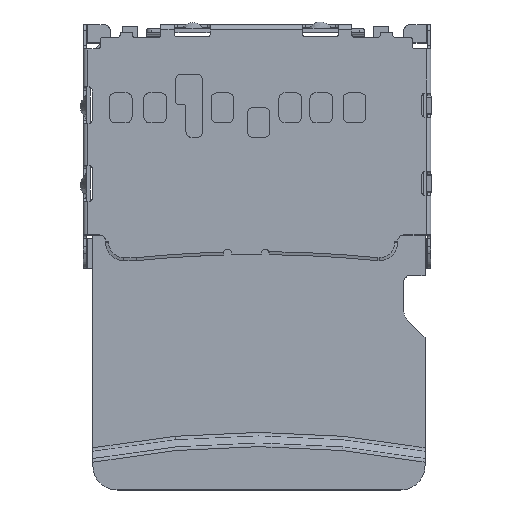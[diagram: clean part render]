
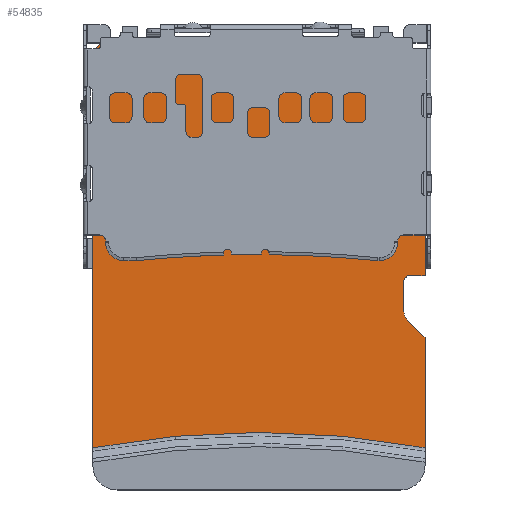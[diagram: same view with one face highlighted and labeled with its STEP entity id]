
A CAD part, top view. The second image highlights one B-rep face of the part: STEP entity #54835.
In plain terms, the highlighted planar face has unit normal (0, 0, 1).
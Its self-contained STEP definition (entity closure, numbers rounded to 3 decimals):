
#53633=CARTESIAN_POINT('',(-0.717,-17.449,
9.665));
#53635=DIRECTION('',(0.,1.,0.));
#53636=VECTOR('',#53635,3.636);
#53637=CARTESIAN_POINT('',(-0.717,-17.449,
9.665));
#53638=LINE('',#53637,#53636);
#53677=DIRECTION('',(0.,-1.,0.));
#53678=VECTOR('',#53677,12.802);
#53679=CARTESIAN_POINT('',(-11.717,-4.648,
9.665));
#53680=LINE('',#53679,#53678);
#53681=CARTESIAN_POINT('',(-11.717,-17.449,
9.665));
#53763=DIRECTION('',(0.,1.,0.));
#53764=VECTOR('',#53763,3.969);
#53765=CARTESIAN_POINT('',(-2.017,-8.616,
9.665));
#53766=LINE('',#53765,#53764);
#53771=CARTESIAN_POINT('',(-10.917,-4.648,
9.665));
#53772=DIRECTION('',(0.,0.,-1.));
#53773=DIRECTION('',(-1.,0.,0.));
#53774=AXIS2_PLACEMENT_3D('',#53771,#53772,#53773);
#53776=CARTESIAN_POINT('',(-2.817,-4.648,
9.665));
#53777=DIRECTION('',(0.,0.,-1.));
#53778=DIRECTION('',(0.,1.,0.));
#53779=AXIS2_PLACEMENT_3D('',#53776,#53777,#53778);
#53781=CARTESIAN_POINT('',(-1.617,-8.616,
9.665));
#53782=DIRECTION('',(0.,0.,1.));
#53783=DIRECTION('',(-1.,0.,0.));
#53784=AXIS2_PLACEMENT_3D('',#53781,#53782,#53783);
#53786=DIRECTION('',(0.707,-0.707,0.));
#53787=VECTOR('',#53786,1.507);
#53788=CARTESIAN_POINT('',(-1.9,-8.899,
9.665));
#53789=LINE('',#53788,#53787);
#53790=CARTESIAN_POINT('',(-1.117,-10.248,
9.665));
#53791=DIRECTION('',(0.,0.,-1.));
#53792=DIRECTION('',(0.707,0.707,0.));
#53793=AXIS2_PLACEMENT_3D('',#53790,#53791,#53792);
#53795=CARTESIAN_POINT('',(-1.217,-11.948,
9.665));
#53796=DIRECTION('',(0.,0.,1.));
#53797=DIRECTION('',(0.,1.,0.));
#53798=AXIS2_PLACEMENT_3D('',#53795,#53796,#53797);
#53800=CARTESIAN_POINT('',(-1.017,-12.948,
9.665));
#53801=DIRECTION('',(0.,0.,1.));
#53802=DIRECTION('',(-1.,0.,0.));
#53803=AXIS2_PLACEMENT_3D('',#53800,#53801,#53802);
#53805=DIRECTION('',(0.707,-0.707,0.));
#53806=VECTOR('',#53805,0.824);
#53807=CARTESIAN_POINT('',(-1.3,-13.231,
9.665));
#53808=LINE('',#53807,#53806);
#53809=CARTESIAN_POINT('',(-6.217,-47.008,
9.665));
#53810=DIRECTION('',(0.,0.,1.));
#53811=DIRECTION('',(0.183,0.983,0.));
#53812=AXIS2_PLACEMENT_3D('',#53809,#53810,#53811);
#53850=DIRECTION('',(-1.,0.,0.));
#53851=VECTOR('',#53850,8.1);
#53852=CARTESIAN_POINT('',(-2.817,-3.848,
9.665));
#53853=LINE('',#53852,#53851);
#53874=DIRECTION('',(0.,1.,0.));
#53875=VECTOR('',#53874,1.5);
#53876=CARTESIAN_POINT('',(-0.717,-11.748,
9.665));
#53877=LINE('',#53876,#53875);
#53886=DIRECTION('',(1.,0.,0.));
#53887=VECTOR('',#53886,0.5);
#53888=CARTESIAN_POINT('',(-1.217,-11.748,
9.665));
#53889=LINE('',#53888,#53887);
#53902=DIRECTION('',(0.,1.,0.));
#53903=VECTOR('',#53902,1.);
#53904=CARTESIAN_POINT('',(-1.417,-12.948,
9.665));
#53905=LINE('',#53904,#53903);
#54326=VERTEX_POINT('',#53633);
#54327=CARTESIAN_POINT('',(-0.717,-13.813,
9.665));
#54328=VERTEX_POINT('',#54327);
#54333=VERTEX_POINT('',#53681);
#54338=CARTESIAN_POINT('',(-11.717,-4.648,
9.665));
#54339=VERTEX_POINT('',#54338);
#54430=CARTESIAN_POINT('',(-2.017,-8.616,
9.665));
#54431=CARTESIAN_POINT('',(-2.017,-4.648,
9.665));
#54432=VERTEX_POINT('',#54430);
#54433=VERTEX_POINT('',#54431);
#54434=CARTESIAN_POINT('',(-10.917,-3.848,
9.665));
#54435=VERTEX_POINT('',#54434);
#54436=CARTESIAN_POINT('',(-2.817,-3.848,
9.665));
#54437=VERTEX_POINT('',#54436);
#54438=CARTESIAN_POINT('',(-1.9,-8.899,
9.665));
#54439=VERTEX_POINT('',#54438);
#54440=CARTESIAN_POINT('',(-0.834,-9.965,
9.665));
#54441=VERTEX_POINT('',#54440);
#54442=CARTESIAN_POINT('',(-0.717,-10.248,
9.665));
#54443=VERTEX_POINT('',#54442);
#54444=CARTESIAN_POINT('',(-0.717,-11.748,
9.665));
#54445=VERTEX_POINT('',#54444);
#54446=CARTESIAN_POINT('',(-1.217,-11.748,
9.665));
#54447=VERTEX_POINT('',#54446);
#54448=CARTESIAN_POINT('',(-1.417,-11.948,
9.665));
#54449=VERTEX_POINT('',#54448);
#54450=CARTESIAN_POINT('',(-1.417,-12.948,
9.665));
#54451=VERTEX_POINT('',#54450);
#54452=CARTESIAN_POINT('',(-1.3,-13.231,
9.665));
#54453=VERTEX_POINT('',#54452);
#54800=CARTESIAN_POINT('',(-11.937,-17.721,
9.665));
#54801=DIRECTION('',(0.,0.,1.));
#54802=DIRECTION('',(1.,0.,0.));
#54803=AXIS2_PLACEMENT_3D('',#54800,#54801,#54802);
#54804=PLANE('',#54803);
#54806=ORIENTED_EDGE('',*,*,#54805,.T.);
#54808=ORIENTED_EDGE('',*,*,#54807,.F.);
#54810=ORIENTED_EDGE('',*,*,#54809,.T.);
#54811=ORIENTED_EDGE('',*,*,#54790,.F.);
#54813=ORIENTED_EDGE('',*,*,#54812,.T.);
#54815=ORIENTED_EDGE('',*,*,#54814,.T.);
#54817=ORIENTED_EDGE('',*,*,#54816,.T.);
#54819=ORIENTED_EDGE('',*,*,#54818,.F.);
#54821=ORIENTED_EDGE('',*,*,#54820,.F.);
#54823=ORIENTED_EDGE('',*,*,#54822,.T.);
#54825=ORIENTED_EDGE('',*,*,#54824,.F.);
#54827=ORIENTED_EDGE('',*,*,#54826,.T.);
#54829=ORIENTED_EDGE('',*,*,#54828,.T.);
#54830=ORIENTED_EDGE('',*,*,#54577,.F.);
#54831=ORIENTED_EDGE('',*,*,#54600,.T.);
#54832=ORIENTED_EDGE('',*,*,#54630,.F.);
#54833=EDGE_LOOP('',(#54806,#54808,#54810,#54811,#54813,#54815,#54817,#54819,
#54821,#54823,#54825,#54827,#54829,#54830,#54831,#54832));
#54834=FACE_OUTER_BOUND('',#54833,.F.);
#53775=CIRCLE('',#53774,0.8);
#53780=CIRCLE('',#53779,0.8);
#53785=CIRCLE('',#53784,0.4);
#53794=CIRCLE('',#53793,0.4);
#53799=CIRCLE('',#53798,0.2);
#53804=CIRCLE('',#53803,0.4);
#53813=CIRCLE('',#53812,30.066);
#54577=EDGE_CURVE('',#54326,#54328,#53638,.T.);
#54600=EDGE_CURVE('',#54326,#54333,#53813,.T.);
#54630=EDGE_CURVE('',#54339,#54333,#53680,.T.);
#54790=EDGE_CURVE('',#54432,#54433,#53766,.T.);
#54805=EDGE_CURVE('',#54339,#54435,#53775,.T.);
#54807=EDGE_CURVE('',#54437,#54435,#53853,.T.);
#54809=EDGE_CURVE('',#54437,#54433,#53780,.T.);
#54812=EDGE_CURVE('',#54432,#54439,#53785,.T.);
#54814=EDGE_CURVE('',#54439,#54441,#53789,.T.);
#54816=EDGE_CURVE('',#54441,#54443,#53794,.T.);
#54818=EDGE_CURVE('',#54445,#54443,#53877,.T.);
#54820=EDGE_CURVE('',#54447,#54445,#53889,.T.);
#54822=EDGE_CURVE('',#54447,#54449,#53799,.T.);
#54824=EDGE_CURVE('',#54451,#54449,#53905,.T.);
#54826=EDGE_CURVE('',#54451,#54453,#53804,.T.);
#54828=EDGE_CURVE('',#54453,#54328,#53808,.T.);
#54835=ADVANCED_FACE('',(#54834),#54804,.T.);
